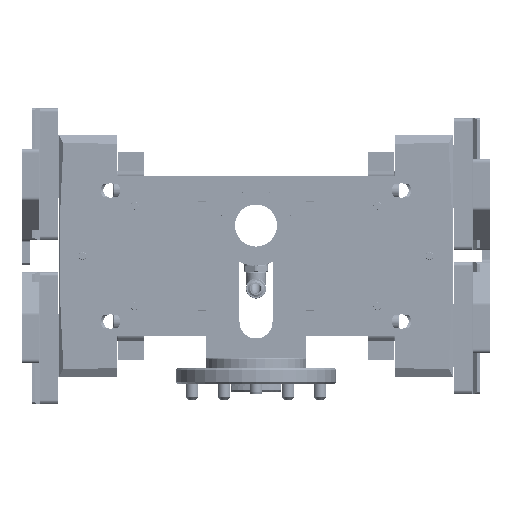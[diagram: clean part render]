
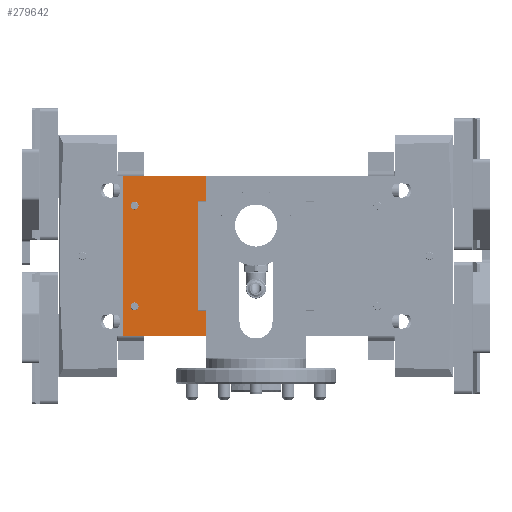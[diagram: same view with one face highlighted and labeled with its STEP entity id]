
A CAD part, front view. The second image highlights one B-rep face of the part: STEP entity #279642.
In plain terms, the highlighted planar face has unit normal (0, -1, 0) as drawn and (0, 0, -1) by its records, which use the part's own axes.
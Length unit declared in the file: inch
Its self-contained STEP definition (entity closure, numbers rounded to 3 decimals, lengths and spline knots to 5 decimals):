
#671 = ORIENTED_EDGE ( 'NONE', *, *, #4345, .F. ) ;
#4345 = EDGE_CURVE ( 'NONE', #107308, #211511, #212186, .T. ) ;
#4394 = EDGE_LOOP ( 'NONE', ( #81287, #89863, #35303, #69007, #250301, #108427, #65372, #671 ) ) ;
#8273 = CARTESIAN_POINT ( 'NONE',  ( 1.9685, 2.04724, -1.17717 ) ) ;
#10698 = CARTESIAN_POINT ( 'NONE',  ( -1.9685, 2.04724, -1.17717 ) ) ;
#12611 = CARTESIAN_POINT ( 'NONE',  ( -1.33858, 1.77165, -1.17717 ) ) ;
#14173 = EDGE_CURVE ( 'NONE', #271064, #191149, #160731, .T. ) ;
#17907 = DIRECTION ( 'NONE',  ( 0., -1., 0. ) ) ;
#18513 = CARTESIAN_POINT ( 'NONE',  ( 1.34449, 0., -1.17717 ) ) ;
#21393 = CARTESIAN_POINT ( 'NONE',  ( 1.34449, 0., -1.17717 ) ) ;
#26562 = ORIENTED_EDGE ( 'NONE', *, *, #61318, .T. ) ;
#29538 = CIRCLE ( 'NONE', #153282, 0.09843 ) ;
#30025 = DIRECTION ( 'NONE',  ( 0., 0., 1. ) ) ;
#30697 = CARTESIAN_POINT ( 'NONE',  ( 1.9685, 2.04724, -1.17717 ) ) ;
#32573 = EDGE_CURVE ( 'NONE', #106730, #90048, #160230, .T. ) ;
#35303 = ORIENTED_EDGE ( 'NONE', *, *, #32573, .T. ) ;
#35335 = CIRCLE ( 'NONE', #201690, 0.09843 ) ;
#45006 = CARTESIAN_POINT ( 'NONE',  ( -1.34449, 0.21654, -1.17717 ) ) ;
#49279 = VECTOR ( 'NONE', #271530, 39.37008 ) ;
#51725 = CARTESIAN_POINT ( 'NONE',  ( 1.9685, 0., -1.17717 ) ) ;
#56809 = VERTEX_POINT ( 'NONE', #12611 ) ;
#60941 = FACE_OUTER_BOUND ( 'NONE', #4394, .T. ) ;
#61276 = EDGE_CURVE ( 'NONE', #271064, #90048, #67335, .T. ) ;
#61318 = EDGE_CURVE ( 'NONE', #163481, #199503, #150536, .T. ) ;
#63866 = DIRECTION ( 'NONE',  ( 0., 0., -1. ) ) ;
#64276 = VECTOR ( 'NONE', #203406, 39.37008 ) ;
#65372 = ORIENTED_EDGE ( 'NONE', *, *, #118723, .F. ) ;
#67335 = LINE ( 'NONE', #45006, #193206 ) ;
#69007 = ORIENTED_EDGE ( 'NONE', *, *, #61276, .F. ) ;
#70180 = EDGE_LOOP ( 'NONE', ( #26562, #284545 ) ) ;
#78080 = EDGE_CURVE ( 'NONE', #106730, #106084, #109326, .T. ) ;
#81287 = ORIENTED_EDGE ( 'NONE', *, *, #186988, .T. ) ;
#83296 = PLANE ( 'NONE',  #281267 ) ;
#89863 = ORIENTED_EDGE ( 'NONE', *, *, #78080, .F. ) ;
#90048 = VERTEX_POINT ( 'NONE', #118753 ) ;
#91834 = VERTEX_POINT ( 'NONE', #272310 ) ;
#94723 = VECTOR ( 'NONE', #127259, 39.37008 ) ;
#101791 = CIRCLE ( 'NONE', #220563, 0.09843 ) ;
#102724 = CARTESIAN_POINT ( 'NONE',  ( 1.24016, 1.77165, -1.17717 ) ) ;
#106084 = VERTEX_POINT ( 'NONE', #21393 ) ;
#106730 = VERTEX_POINT ( 'NONE', #162745 ) ;
#107308 = VERTEX_POINT ( 'NONE', #51725 ) ;
#108427 = ORIENTED_EDGE ( 'NONE', *, *, #244281, .F. ) ;
#109326 = LINE ( 'NONE', #18513, #49279 ) ;
#115380 = VECTOR ( 'NONE', #192258, 39.37008 ) ;
#117652 = EDGE_CURVE ( 'NONE', #56809, #91834, #29538, .T. ) ;
#118723 = EDGE_CURVE ( 'NONE', #211511, #206180, #175817, .T. ) ;
#118753 = CARTESIAN_POINT ( 'NONE',  ( -1.34449, 0.21654, -1.17717 ) ) ;
#126157 = ORIENTED_EDGE ( 'NONE', *, *, #117652, .T. ) ;
#127259 = DIRECTION ( 'NONE',  ( 0., 1., 0. ) ) ;
#129407 = EDGE_LOOP ( 'NONE', ( #126157, #157819 ) ) ;
#133819 = FACE_BOUND ( 'NONE', #70180, .T. ) ;
#134028 = DIRECTION ( 'NONE',  ( -1., 0., 0. ) ) ;
#150536 = CIRCLE ( 'NONE', #164732, 0.09843 ) ;
#152342 = DIRECTION ( 'NONE',  ( -1., 0., 0. ) ) ;
#153282 = AXIS2_PLACEMENT_3D ( 'NONE', #207352, #164178, #255009 ) ;
#154894 = CARTESIAN_POINT ( 'NONE',  ( -1.34449, 0., -1.17717 ) ) ;
#157819 = ORIENTED_EDGE ( 'NONE', *, *, #245008, .T. ) ;
#160230 = LINE ( 'NONE', #227221, #64276 ) ;
#160731 = LINE ( 'NONE', #184532, #216769 ) ;
#162745 = CARTESIAN_POINT ( 'NONE',  ( 1.34449, 0.21654, -1.17717 ) ) ;
#163481 = VERTEX_POINT ( 'NONE', #205382 ) ;
#164029 = DIRECTION ( 'NONE',  ( -1., 0., 0. ) ) ;
#164178 = DIRECTION ( 'NONE',  ( 0., 0., 1. ) ) ;
#164732 = AXIS2_PLACEMENT_3D ( 'NONE', #166994, #30025, #164029 ) ;
#166994 = CARTESIAN_POINT ( 'NONE',  ( 1.24016, 1.77165, -1.17717 ) ) ;
#168097 = VECTOR ( 'NONE', #17907, 39.37008 ) ;
#173187 = CARTESIAN_POINT ( 'NONE',  ( -1.24016, 1.77165, -1.17717 ) ) ;
#174111 = CARTESIAN_POINT ( 'NONE',  ( 1.9685, 0., -1.17717 ) ) ;
#175817 = LINE ( 'NONE', #10698, #115380 ) ;
#177019 = DIRECTION ( 'NONE',  ( -1., 0., 0. ) ) ;
#184532 = CARTESIAN_POINT ( 'NONE',  ( -1.34449, 0., -1.17717 ) ) ;
#186988 = EDGE_CURVE ( 'NONE', #107308, #106084, #266949, .T. ) ;
#191149 = VERTEX_POINT ( 'NONE', #225738 ) ;
#192258 = DIRECTION ( 'NONE',  ( -1., 0., 0. ) ) ;
#193206 = VECTOR ( 'NONE', #226629, 39.37008 ) ;
#197897 = FACE_BOUND ( 'NONE', #129407, .T. ) ;
#199503 = VERTEX_POINT ( 'NONE', #259822 ) ;
#201690 = AXIS2_PLACEMENT_3D ( 'NONE', #102724, #288780, #241135 ) ;
#203406 = DIRECTION ( 'NONE',  ( -1., 0., 0. ) ) ;
#205382 = CARTESIAN_POINT ( 'NONE',  ( 1.14173, 1.77165, -1.17717 ) ) ;
#206180 = VERTEX_POINT ( 'NONE', #255163 ) ;
#207352 = CARTESIAN_POINT ( 'NONE',  ( -1.24016, 1.77165, -1.17717 ) ) ;
#211511 = VERTEX_POINT ( 'NONE', #30697 ) ;
#212186 = LINE ( 'NONE', #8273, #94723 ) ;
#216769 = VECTOR ( 'NONE', #134028, 39.37008 ) ;
#217864 = DIRECTION ( 'NONE',  ( 0., 0., 1. ) ) ;
#220563 = AXIS2_PLACEMENT_3D ( 'NONE', #173187, #217864, #259656 ) ;
#221841 = CARTESIAN_POINT ( 'NONE',  ( -1.9685, 0., -1.17717 ) ) ;
#223221 = EDGE_CURVE ( 'NONE', #199503, #163481, #35335, .T. ) ;
#225738 = CARTESIAN_POINT ( 'NONE',  ( -1.9685, 0., -1.17717 ) ) ;
#226629 = DIRECTION ( 'NONE',  ( 0., 1., 0. ) ) ;
#227221 = CARTESIAN_POINT ( 'NONE',  ( 1.34449, 0.21654, -1.17717 ) ) ;
#241135 = DIRECTION ( 'NONE',  ( -1., 0., 0. ) ) ;
#244188 = LINE ( 'NONE', #221841, #168097 ) ;
#244281 = EDGE_CURVE ( 'NONE', #206180, #191149, #244188, .T. ) ;
#245008 = EDGE_CURVE ( 'NONE', #91834, #56809, #101791, .T. ) ;
#250301 = ORIENTED_EDGE ( 'NONE', *, *, #14173, .T. ) ;
#255009 = DIRECTION ( 'NONE',  ( -1., 0., 0. ) ) ;
#255163 = CARTESIAN_POINT ( 'NONE',  ( -1.9685, 2.04724, -1.17717 ) ) ;
#259656 = DIRECTION ( 'NONE',  ( -1., 0., 0. ) ) ;
#259822 = CARTESIAN_POINT ( 'NONE',  ( 1.33858, 1.77165, -1.17717 ) ) ;
#265496 = CARTESIAN_POINT ( 'NONE',  ( 1.9685, 0., -1.17717 ) ) ;
#266949 = LINE ( 'NONE', #265496, #269159 ) ;
#269159 = VECTOR ( 'NONE', #152342, 39.37008 ) ;
#271064 = VERTEX_POINT ( 'NONE', #154894 ) ;
#271530 = DIRECTION ( 'NONE',  ( 0., -1., 0. ) ) ;
#272310 = CARTESIAN_POINT ( 'NONE',  ( -1.14173, 1.77165, -1.17717 ) ) ;
#279642 = ADVANCED_FACE ( 'NONE', ( #60941, #133819, #197897 ), #83296, .T. ) ;
#281267 = AXIS2_PLACEMENT_3D ( 'NONE', #174111, #63866, #177019 ) ;
#284545 = ORIENTED_EDGE ( 'NONE', *, *, #223221, .T. ) ;
#288780 = DIRECTION ( 'NONE',  ( 0., 0., 1. ) ) ;
